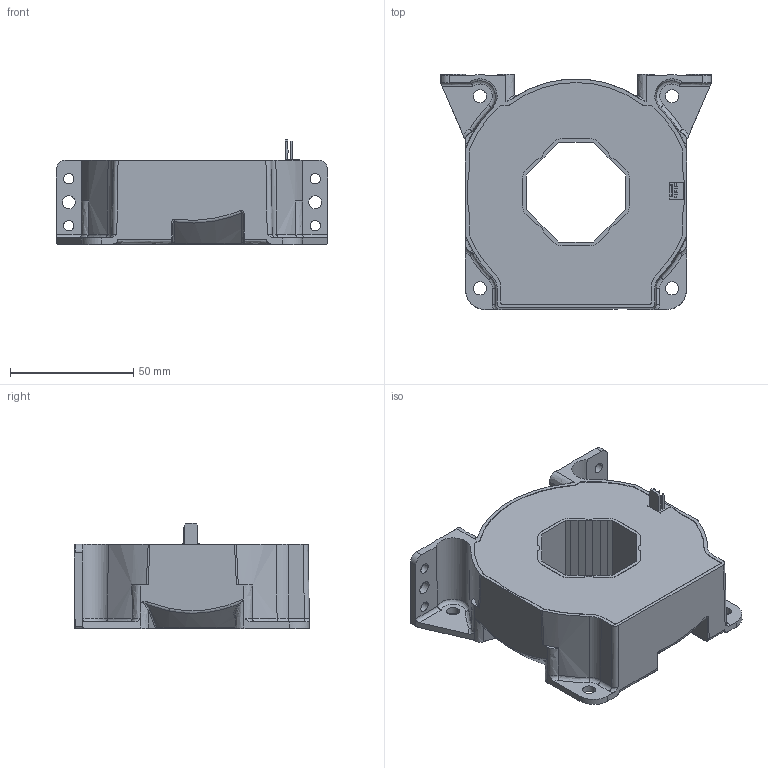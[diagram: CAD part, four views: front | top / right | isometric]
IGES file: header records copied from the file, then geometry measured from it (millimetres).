
Start section: Elysium IGES Interface
Global section: file name: \\Gva50\sd-data\Etudes\GVu\BLACK BOX\LF 1005-S\LF 1005-S_SP35_Blackbox\LF 1005-S_SP35_Blackbox.igs; native system: SolidDesigner 16.00A  16-Aug-2008; preprocessor: CoCreate IGES_3D V2.2; author: Unknown; organization: Unknown; date: 20090527.084235; units: millimetre
Bounding box: 110 x 95.39 x 42.9 mm (x, y, z)
Volume: 202481.8 mm3; surface area: 36841.3 mm2
Topology: 2 solids, 2 shells, 1167 faces, 3119 edges, 2034 vertices
Faces by surface type: bspline 1167
